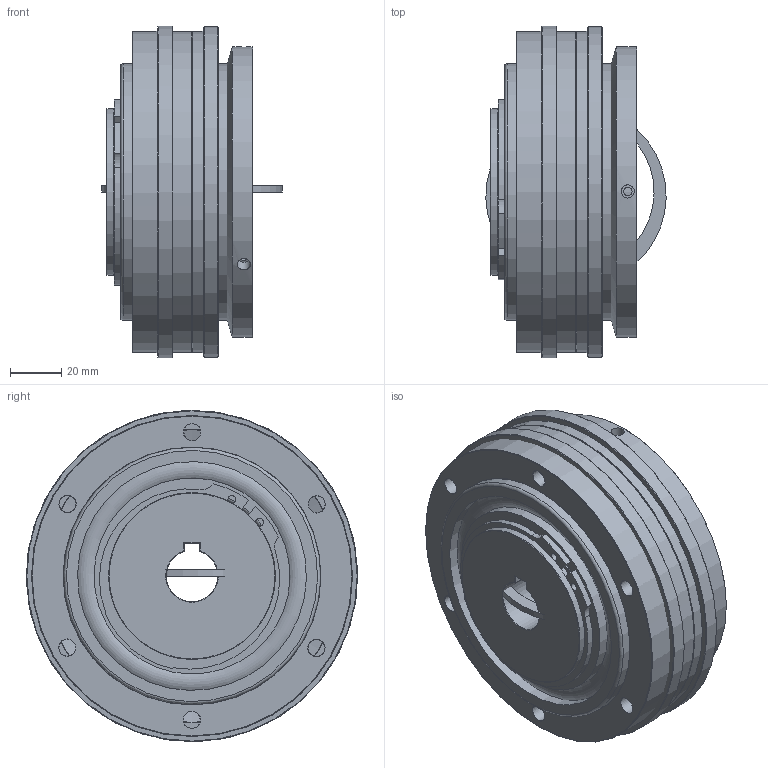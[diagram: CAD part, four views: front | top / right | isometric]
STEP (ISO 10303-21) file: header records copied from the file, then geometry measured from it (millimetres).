
FILE_DESCRIPTION( ( 'Unknown' ), '1' );
FILE_NAME( 'C:/Dokumente und Einstellungen/Sven/Desktop/hp kbk/KBK L-P-500.stp', 'Unknown', ( 'Unknown' ), ( 'Unknown' ), 'XStep 1.0', 'Unknown', ' ' );
FILE_SCHEMA( ( 'automotive_design' ) );
Length unit declared in the file: millimetre
Products named in the file (10): Assem1; Assem2; ball_bearing_-_6013_0_01; ball_bearing_-_6013_0_02; ball_bearing_-_6013_0_03; KBK L-P-500 Grundkörper; Stellring 500; Druckring 500; Flansch 500; a_65
Bounding box: 70.18 x 129 x 129 mm (x, y, z)
Volume: 1089341 mm3; surface area: 307341.6 mm2
Topology: 19 solids, 19 shells, 253 faces, 516 edges, 327 vertices
Faces by surface type: cylinder 100, plane 88, cone 40, torus 25
Full cylindrical faces by diameter (mm): 3 x4, 3.242 x6, 5.1 x6, 5.2 x6, 6.647 x12, 62 x2, 65 x7, 76.3 x6, 86 x4, 89.1 x6, 91 x2, 100 x5, 104.5 x2, 113 x2, 114 x2, 125 x4, 129 x2
Entity records: 3305 total; most frequent: CARTESIAN_POINT 758, DIRECTION 526, ORIENTED_EDGE 318, AXIS2_PLACEMENT_3D 245, EDGE_LOOP 218, FACE_OUTER_BOUND 161, EDGE_CURVE 159, VERTEX_POINT 135
